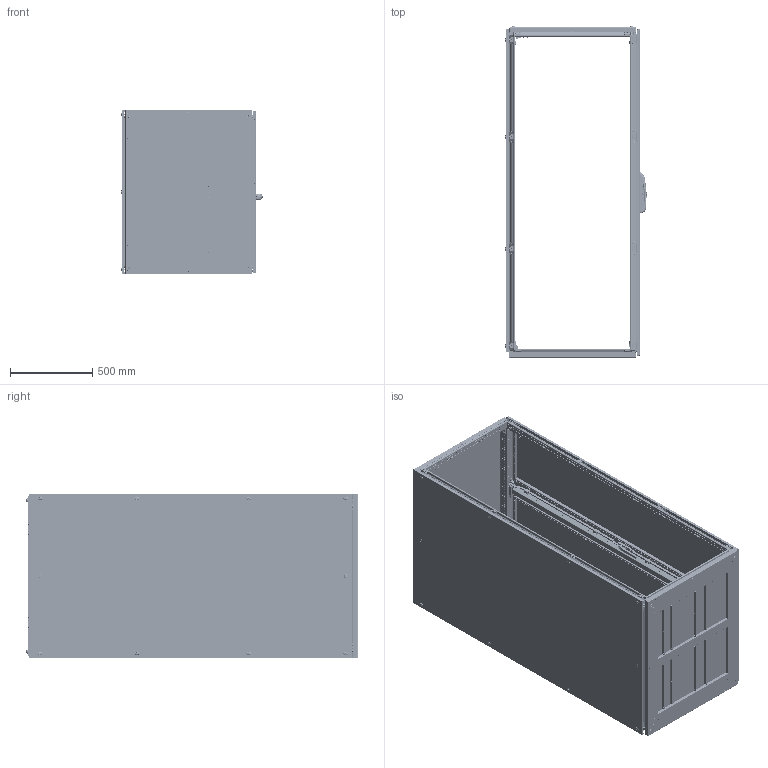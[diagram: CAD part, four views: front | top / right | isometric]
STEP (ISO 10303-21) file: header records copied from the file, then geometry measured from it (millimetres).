
FILE_DESCRIPTION (( 'STEP AP214' ), '1' );
FILE_NAME ('T201008D - 2000 H X 1000 W X 800 D.STEP', '2026-09-14T08:53:34', ( '' ), ( '' ), 'SwSTEP 2.0', 'SolidWorks 2025', '' );
FILE_SCHEMA (( 'AUTOMOTIVE_DESIGN' ));
Length unit declared in the file: millimetre
Products named in the file (122): ENINE DELIKLI PROFIL 2018-2_1000; PM 25.0039 WITH CAGE NUT TEOS SIDE AND REAR PANEL BRACKET TOP - BOTTOM; M5 SQUARE WASHER; k2-31 2018-2; MP 18.7631 yddk_tozkapagi; Profile Frame_1000x2000; MP 25.0026 TEOS MENTEŞE ALT - ÜST; MP 18.7631 Kol-Cark; teos double door top support; 03-TABAN SACI U1 04-2012_PP 12.0037 - 1000-200; k2-39 2018-2; Teos-Neo MP Sağ Braketi; Teos-Neo Mounting Plate Right Bracket Mounting_Standart Pozisyon; 03-TABAN SACI SURGU_PP 12.0032 - 1000; B18.6.7M - M3.5 x 0.6 x 10 Type I Cross Recessed PHMS --10S_B18.6.7M - M5 x 0.8 x 13 Type I Cross Recessed PHMS --13N; Teos-Neo MP Durdurucu; PM 25.0040 WITH CAGE NUT TEOS SIDE AND REAR PANEL BRACKET - MIDDLE; torque nut 01_iso1_ISO 7040-M6-N; MP 14.0006 SEALING GASKET 2; somu; whell washer; Mirror03-KOSE PUNT; T201008D -  2000 H X 1000 W X 800 D; TEOS FRAME_2000 ; k2-26 2018-2; Mounting Plate bottom wedge screw; mp aLT DAYAMA_PP 12.0094 - 800; k2-27 2018-2; 22032010-PLASTIK KOSE50x40 2018-2; Front Name Slat 1_1000 sağ logolu taç; Front door 2 mm dkp - Right_PP 17.1071 1000x2000 sağ; BOYUNA DELIKLI PROFIL 2018-2_2000; kaucuk eskiye uyarlama 10.2016 2018-2; MP 18.7631 Arka Kapak; k2-37 2018-2; MP 18.7631 32002136; TEOS FRAME_800; hex nut style 1 gradeab_din1_Hexagon Nut ISO 4032 - M6 - W - N; Base depth with rivet_PP 12.0026 - 800; Teos-Neo MP Durdurucu Destek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
Assembly tree (398 placements, depth 5):
  T201008D -  2000 H X 1000 W X 800 D
    TEOS FRAME ASSEMBLY_1000x2000x800
      TEOS FRAME_2000   x4
      TEOS FRAME_800  x4
      TEOS FRAME_1000  x4
      L CORNER SUPPORT  x8
      CORNER BRACKET  x15
      CORNER BRACKET 2
      MP 11.0140 TEOS ALUMINIUM CORNER  x8
      M5 SQUARE WASHER  x16
      Riveted Base_701.080-100x80 ALT
        Base width with rivet_PP 12.0021 - 1000  x2
        Base depth with rivet_PP 12.0026 - 800  x2
        03-KOSE PUNT_PP 12.0027  x2
        Mirror03-KOSE PUNT  x2
        03taban derinlik orta  percinli 04-2012_PP 16.0120 -800
        03-TABAN SACI SURGU_PP 12.0032 - 1000  x4
        03-TABAN SACI U1 04-2012_PP 12.0042 - 1000-75  x2
        03-TABAN SACI U1 04-2012_PP 12.0037 - 1000-200  x2
        mp aLT DAYAMA_PP 12.0094 - 800  x2
      socket button head cap screw_am1_B18.3.4M - 8 x 1.25 x 16 SBHCS --N  x55
      pan cross head_am1_B18.6.7M - M5 x 0.8 x 10 Type I Cross Recessed PHMS --10N  x23
      B18.3.5M - 5 x 0.8 x 10 Socket FCHS  -- 10N_B18.3.5M - 5 x 0.8 x 10 Socket FCHS  -- 10N  x16
      PM 25.0039 WITH CAGE NUT TEOS SIDE AND REAR PANEL BRACKET TOP - BOTTOM  x4
        MP 25.0030 TEOS YAN VE ARKA KAPAK BAĞLANTI SACI ALT - ÜST
        M6 KAFES SOMU2015 2025
          kafes somun kafes 2025
          somu 2025
      PM 25.0040 WITH CAGE NUT TEOS SIDE AND REAR PANEL BRACKET - MIDDLE  x4
        MP 25.0031 TEOS YAN VE ARKA KAPAK BAĞLANTI SACI ORTA
        M6 KAFES SOMU2015 2025
          kafes somun kafes 2025
          somu 2025
      PM 25.0041 HINGE BRACKET WITH CAGE NUT TOP - BOTTOM  x4
        MP 25.0026 TEOS MENTEŞE ALT - ÜST
        M6 KAFES SOMU
          kafes somun kafes
          somu
      PM 25.0042 HINGE BRACKET WITH CAGE NUT TOP - MIDDLE  x4
        MP 25.0027 TEOS MENTEŞE ORTA
        M6 KAFES SOMU2015 2025
          kafes somun kafes 2025
          somu 2025
      03-TABAN SACI U1 04-2012_PP 12.0037 - 1000-200  x2
    Teos Top Cover 2_PP 13.0022 1000x800
    TEOS REAR PANEL_ 703.020 1000X2000
      Teos Rear Panel Dkp 1.5 mm_PP 12.0085 1000x2000
      PB 14.0004 M6 Countersunk Plastic Screw Holder  x10
        MP 14.0007 M6 PLASTİK HAVSA
        flat head screw_am_B18.6.7M - M6 x 1.0 x 30 Type I Cross Recessed FHMS --30N
    Teos-Neo 3mm MOUNTING PLATE_TEOS MP 1000x2000
      Teos - Neo Mounting Plate - 3 mm_PP 12.0106 1000x2000
      MP 11.0195 Mounting Plate M8 Wedge  x2
      socket head cap screw_am_B18.3.1M - 8 x 1.25 x 35 Hex SHCS -- 35NHX  x2
      Teos-Neo Mounting Plate Right Bracket Mounting_Standart Pozisyon
        Teos-Neo MP Sağ Braketi
        pan head cross recess screw_iso_ISO 7045 - M5 x 10 - Z --- 10C  x2
        M8 KAFES SOMUN_m8
          M8 Somun Kafesi_m8
          M8 Kare Somun_m8
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Bounding box: 859.22 x 2018.08 x 1001.34 mm (x, y, z)
Volume: 24067843.9 mm3; surface area: 24491147 mm2
Topology: 441 solids, 481 shells, 55906 faces, 150071 edges, 94685 vertices
Faces by surface type: plane 32344, cylinder 17397, bspline 2822, cone 1519, torus 1061, sphere 763
Entity records: 730846 total; most frequent: CARTESIAN_POINT 326876, ORIENTED_EDGE 86176, DIRECTION 78216, EDGE_CURVE 43088, VERTEX_POINT 27407, AXIS2_PLACEMENT_3D 26231, VECTOR 25754, LINE 25754
